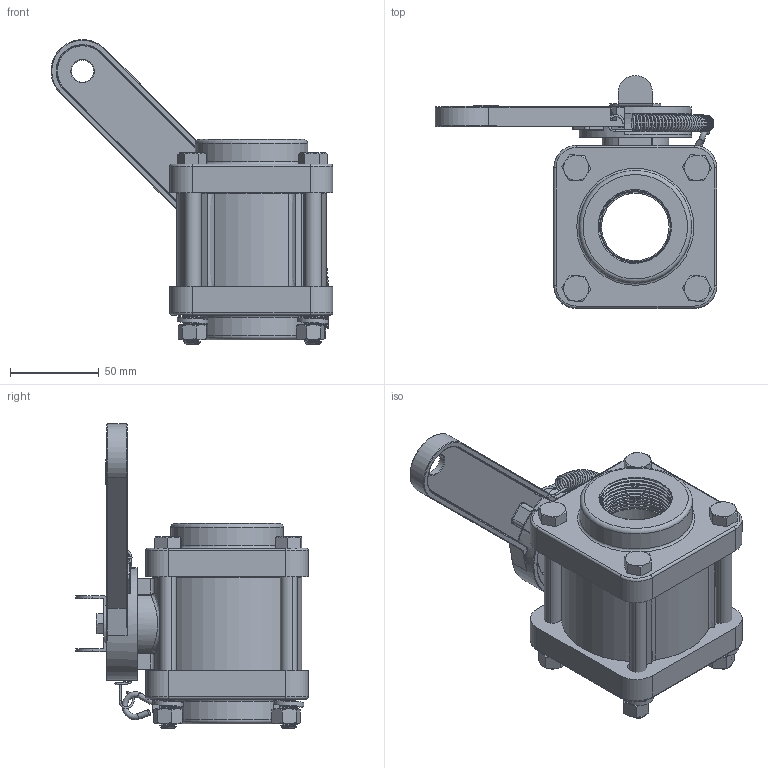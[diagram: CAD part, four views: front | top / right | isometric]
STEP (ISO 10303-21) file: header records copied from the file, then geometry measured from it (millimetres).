
FILE_DESCRIPTION(/* description */ ('Alibre Inc.'),/* implementation_level */ '2;1');
FILE_NAME(/* name */ 'export0',/* time_stamp */ '2017-09-30T10:47:35-04:00',/* author */ (''),/* organization */ (''),/* preprocessor_version */ 'ST-DEVELOPER v14',/* originating_system */ 'Alibre',/* authorisation */ '');
FILE_SCHEMA (('CONFIG_CONTROL_DESIGN'));
Length unit declared in the file: inch
Products named in the file (26): ID_1; ID_2; ID_3; ID_4; ID_5; ID_6; ID_7; ID_8; ID_9; ID_10; ID_11; ID_12; ID_13; ID_14; ID_15; ID_16; ID_17; ID_18; ID_19; ID_20; ID_21
Bounding box: 158.88 x 131.42 x 171.88 mm (x, y, z)
Volume: 595695.8 mm3; surface area: 190944.8 mm2
Topology: 63 solids, 63 shells, 1259 faces, 3180 edges, 1996 vertices
Faces by surface type: cylinder 458, plane 321, cone 192, bspline 185, torus 94, sphere 9
Full cylindrical faces by diameter (mm): 1.143 x2, 3.175 x2, 4.775 x1, 4.826 x3, 4.978 x1, 7.163 x1, 9.652 x8, 12.446 x1, 19.05 x4, 19.431 x1, 21.59 x1, 22.098 x1, 22.352 x2, 22.86 x1, 24.892 x1, 25.4 x1, 31.496 x2, 31.75 x1, 33.147 x1, 38.1 x2, 38.354 x1, 39.624 x18, 63.5 x4, 65.278 x1, 71.12 x2, 71.628 x2
Entity records: 64316 total; most frequent: CARTESIAN_POINT 44702, ORIENTED_EDGE 3696, DIRECTION 2856, EDGE_CURVE 1848, VERTEX_POINT 1223, AXIS2_PLACEMENT_3D 1223, FACE_BOUND 929, EDGE_LOOP 901
